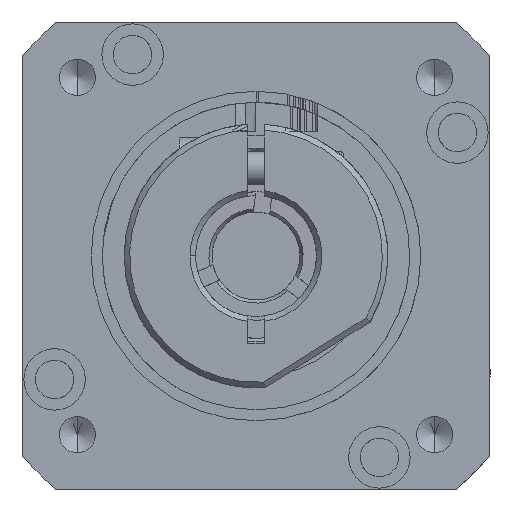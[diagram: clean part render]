
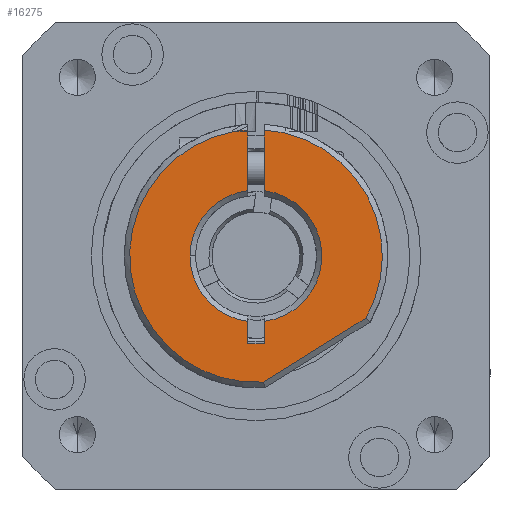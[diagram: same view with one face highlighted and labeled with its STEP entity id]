
A CAD part, left-side view. The second image highlights one B-rep face of the part: STEP entity #16275.
In plain terms, the highlighted planar face has unit normal (-1, 0, 0) as drawn and (0, -1, 0) by its records, which use the part's own axes.
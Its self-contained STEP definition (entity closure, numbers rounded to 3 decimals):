
#546 = FACE_OUTER_BOUND ( 'NONE', #20409, .T. ) ;
#1452 = DIRECTION ( 'NONE',  ( 0., 0., 1. ) ) ;
#1754 = EDGE_CURVE ( 'NONE', #43505, #19492, #45173, .T. ) ;
#2467 = VECTOR ( 'NONE', #14125, 1000. ) ;
#2603 = CARTESIAN_POINT ( 'NONE',  ( 5.953, -4., -0.75 ) ) ;
#2661 = AXIS2_PLACEMENT_3D ( 'NONE', #8057, #7956, #7884 ) ;
#3001 = CARTESIAN_POINT ( 'NONE',  ( -11.3, -4., 0. ) ) ;
#3725 = EDGE_CURVE ( 'NONE', #33046, #22919, #5771, .T. ) ;
#4030 = AXIS2_PLACEMENT_3D ( 'NONE', #49922, #25734, #1452 ) ;
#5771 = CIRCLE ( 'NONE', #2661, 11.5 ) ;
#5845 = VERTEX_POINT ( 'NONE', #38328 ) ;
#6757 = EDGE_CURVE ( 'NONE', #33067, #26559, #25935, .T. ) ;
#7259 = DIRECTION ( 'NONE',  ( 0., 0., 1. ) ) ;
#7370 = ORIENTED_EDGE ( 'NONE', *, *, #24084, .T. ) ;
#7840 = VECTOR ( 'NONE', #33724, 1000. ) ;
#7884 = DIRECTION ( 'NONE',  ( 0., 0., 1. ) ) ;
#7956 = DIRECTION ( 'NONE',  ( 0., -1., 0. ) ) ;
#8033 = ORIENTED_EDGE ( 'NONE', *, *, #49505, .T. ) ;
#8057 = CARTESIAN_POINT ( 'NONE',  ( 0., -4., 0. ) ) ;
#8690 = DIRECTION ( 'NONE',  ( 1., 0., 0. ) ) ;
#8741 = EDGE_CURVE ( 'NONE', #39120, #18537, #43976, .T. ) ;
#9149 = AXIS2_PLACEMENT_3D ( 'NONE', #45866, #21666, #49919 ) ;
#9167 = ORIENTED_EDGE ( 'NONE', *, *, #9672, .T. ) ;
#9672 = EDGE_CURVE ( 'NONE', #21585, #22077, #29282, .T. ) ;
#9776 = EDGE_CURVE ( 'NONE', #18537, #26841, #37567, .T. ) ;
#10687 = ORIENTED_EDGE ( 'NONE', *, *, #48739, .T. ) ;
#10951 = CARTESIAN_POINT ( 'NONE',  ( -14.792, -4., 0.75 ) ) ;
#11748 = ORIENTED_EDGE ( 'NONE', *, *, #36582, .T. ) ;
#12439 = CARTESIAN_POINT ( 'NONE',  ( 8., -4., -0.75 ) ) ;
#12706 = CARTESIAN_POINT ( 'NONE',  ( 0., -4., 0. ) ) ;
#12722 = CARTESIAN_POINT ( 'NONE',  ( -11.476, -4., 0.75 ) ) ;
#13787 = DIRECTION ( 'NONE',  ( -1., 0., 0. ) ) ;
#14125 = DIRECTION ( 'NONE',  ( -1., 0., 0. ) ) ;
#14667 = VERTEX_POINT ( 'NONE', #19651 ) ;
#15105 = VECTOR ( 'NONE', #50972, 1000. ) ;
#15193 = VECTOR ( 'NONE', #13787, 1000. ) ;
#15293 = CARTESIAN_POINT ( 'NONE',  ( -5.953, -4., 0.75 ) ) ;
#15542 = ORIENTED_EDGE ( 'NONE', *, *, #20354, .F. ) ;
#16113 = DIRECTION ( 'NONE',  ( 0., 0., -1. ) ) ;
#16178 = DIRECTION ( 'NONE',  ( 0., -1., 0. ) ) ;
#16275 = ADVANCED_FACE ( 'NONE', ( #546 ), #17674, .T. ) ;
#16346 = CARTESIAN_POINT ( 'NONE',  ( 5.5, -4., 0. ) ) ;
#16827 = DIRECTION ( 'NONE',  ( 0., 0., -1. ) ) ;
#17674 = PLANE ( 'NONE',  #43690 ) ;
#18305 = CARTESIAN_POINT ( 'NONE',  ( -11.476, -4., -0.75 ) ) ;
#18537 = VERTEX_POINT ( 'NONE', #15293 ) ;
#18728 = CARTESIAN_POINT ( 'NONE',  ( 8., -4., 0. ) ) ;
#19439 = ORIENTED_EDGE ( 'NONE', *, *, #8741, .T. ) ;
#19492 = VERTEX_POINT ( 'NONE', #21898 ) ;
#19651 = CARTESIAN_POINT ( 'NONE',  ( 5.651, -4., 10.016 ) ) ;
#20354 = EDGE_CURVE ( 'NONE', #24559, #22077, #30061, .T. ) ;
#20409 = EDGE_LOOP ( 'NONE', ( #15542, #7370, #29202, #37797, #8033, #19439, #48466, #10687, #51407, #47637, #20990, #44464, #27477, #11748, #9167 ) ) ;
#20576 = EDGE_CURVE ( 'NONE', #19492, #33067, #25056, .T. ) ;
#20990 = ORIENTED_EDGE ( 'NONE', *, *, #1754, .T. ) ;
#21562 = AXIS2_PLACEMENT_3D ( 'NONE', #39841, #45566, #43257 ) ;
#21585 = VERTEX_POINT ( 'NONE', #21640 ) ;
#21640 = CARTESIAN_POINT ( 'NONE',  ( -11.369, -4., -1.732 ) ) ;
#21666 = DIRECTION ( 'NONE',  ( 0., -1., 0. ) ) ;
#21898 = CARTESIAN_POINT ( 'NONE',  ( 0., -4., -6. ) ) ;
#22077 = VERTEX_POINT ( 'NONE', #30366 ) ;
#22391 = EDGE_CURVE ( 'NONE', #22919, #14667, #43265, .T. ) ;
#22796 = CARTESIAN_POINT ( 'NONE',  ( 5.5, -4., -2.103 ) ) ;
#22919 = VERTEX_POINT ( 'NONE', #40605 ) ;
#24084 = EDGE_CURVE ( 'NONE', #24559, #33046, #25135, .T. ) ;
#24559 = VERTEX_POINT ( 'NONE', #43102 ) ;
#25056 = CIRCLE ( 'NONE', #32534, 6. ) ;
#25135 = LINE ( 'NONE', #22796, #45353 ) ;
#25363 = CIRCLE ( 'NONE', #9149, 11.5 ) ;
#25734 = DIRECTION ( 'NONE',  ( 0., -1., 0. ) ) ;
#25935 = LINE ( 'NONE', #12439, #15193 ) ;
#26559 = VERTEX_POINT ( 'NONE', #18305 ) ;
#26597 = CARTESIAN_POINT ( 'NONE',  ( -11.306, -4., -2.103 ) ) ;
#26681 = VECTOR ( 'NONE', #31734, 1000. ) ;
#26841 = VERTEX_POINT ( 'NONE', #28422 ) ;
#27477 = ORIENTED_EDGE ( 'NONE', *, *, #6757, .T. ) ;
#28422 = CARTESIAN_POINT ( 'NONE',  ( 5.953, -4., 0.75 ) ) ;
#28567 = CARTESIAN_POINT ( 'NONE',  ( 11.479, -4., 0.689 ) ) ;
#29202 = ORIENTED_EDGE ( 'NONE', *, *, #3725, .T. ) ;
#29282 = LINE ( 'NONE', #34019, #7840 ) ;
#29689 = DIRECTION ( 'NONE',  ( 0., 0., -1. ) ) ;
#29756 = DIRECTION ( 'NONE',  ( 0., 1., 0. ) ) ;
#29764 = CARTESIAN_POINT ( 'NONE',  ( 0., -4., 0. ) ) ;
#30061 = LINE ( 'NONE', #3001, #40870 ) ;
#30366 = CARTESIAN_POINT ( 'NONE',  ( -11.3, -4., -1.732 ) ) ;
#30828 = DIRECTION ( 'NONE',  ( -1., 0., 0. ) ) ;
#31040 = EDGE_CURVE ( 'NONE', #5845, #43505, #34748, .T. ) ;
#31734 = DIRECTION ( 'NONE',  ( 1., 0., 0. ) ) ;
#32429 = DIRECTION ( 'NONE',  ( -0.53, 0., 0.848 ) ) ;
#32534 = AXIS2_PLACEMENT_3D ( 'NONE', #12706, #41002, #16827 ) ;
#33046 = VERTEX_POINT ( 'NONE', #26597 ) ;
#33067 = VERTEX_POINT ( 'NONE', #46729 ) ;
#33724 = DIRECTION ( 'NONE',  ( 1., 0., 0. ) ) ;
#34019 = CARTESIAN_POINT ( 'NONE',  ( -11.3, -4., -1.732 ) ) ;
#34748 = LINE ( 'NONE', #50500, #2467 ) ;
#36578 = LINE ( 'NONE', #18728, #15105 ) ;
#36582 = EDGE_CURVE ( 'NONE', #26559, #21585, #47696, .T. ) ;
#37567 = CIRCLE ( 'NONE', #45514, 6. ) ;
#37797 = ORIENTED_EDGE ( 'NONE', *, *, #22391, .T. ) ;
#38328 = CARTESIAN_POINT ( 'NONE',  ( 8., -4., -0.75 ) ) ;
#39120 = VERTEX_POINT ( 'NONE', #12722 ) ;
#39841 = CARTESIAN_POINT ( 'NONE',  ( 0., -4., 0. ) ) ;
#39956 = CARTESIAN_POINT ( 'NONE',  ( -14.792, -4., 0.75 ) ) ;
#39978 = LINE ( 'NONE', #39956, #26681 ) ;
#40605 = CARTESIAN_POINT ( 'NONE',  ( 11.479, -4., 0.689 ) ) ;
#40870 = VECTOR ( 'NONE', #7259, 1000. ) ;
#41002 = DIRECTION ( 'NONE',  ( 0., 1., 0. ) ) ;
#41970 = VECTOR ( 'NONE', #32429, 1000. ) ;
#42400 = VERTEX_POINT ( 'NONE', #48917 ) ;
#42644 = EDGE_CURVE ( 'NONE', #42400, #5845, #36578, .T. ) ;
#42700 = VECTOR ( 'NONE', #8690, 1000. ) ;
#43102 = CARTESIAN_POINT ( 'NONE',  ( -11.3, -4., -2.103 ) ) ;
#43257 = DIRECTION ( 'NONE',  ( 0., 0., -1. ) ) ;
#43265 = LINE ( 'NONE', #28567, #41970 ) ;
#43505 = VERTEX_POINT ( 'NONE', #2603 ) ;
#43690 = AXIS2_PLACEMENT_3D ( 'NONE', #16346, #16178, #16113 ) ;
#43976 = LINE ( 'NONE', #10951, #42700 ) ;
#44464 = ORIENTED_EDGE ( 'NONE', *, *, #20576, .T. ) ;
#45173 = CIRCLE ( 'NONE', #21562, 6. ) ;
#45353 = VECTOR ( 'NONE', #30828, 1000. ) ;
#45514 = AXIS2_PLACEMENT_3D ( 'NONE', #29764, #29756, #29689 ) ;
#45566 = DIRECTION ( 'NONE',  ( 0., 1., 0. ) ) ;
#45866 = CARTESIAN_POINT ( 'NONE',  ( 0., -4., 0. ) ) ;
#46729 = CARTESIAN_POINT ( 'NONE',  ( -5.953, -4., -0.75 ) ) ;
#47637 = ORIENTED_EDGE ( 'NONE', *, *, #31040, .T. ) ;
#47696 = CIRCLE ( 'NONE', #4030, 11.5 ) ;
#48466 = ORIENTED_EDGE ( 'NONE', *, *, #9776, .T. ) ;
#48739 = EDGE_CURVE ( 'NONE', #26841, #42400, #39978, .T. ) ;
#48917 = CARTESIAN_POINT ( 'NONE',  ( 8., -4., 0.75 ) ) ;
#49505 = EDGE_CURVE ( 'NONE', #14667, #39120, #25363, .T. ) ;
#49919 = DIRECTION ( 'NONE',  ( -1., 0., 0. ) ) ;
#49922 = CARTESIAN_POINT ( 'NONE',  ( 0., -4., 0. ) ) ;
#50500 = CARTESIAN_POINT ( 'NONE',  ( 8., -4., -0.75 ) ) ;
#50972 = DIRECTION ( 'NONE',  ( 0., 0., -1. ) ) ;
#51407 = ORIENTED_EDGE ( 'NONE', *, *, #42644, .T. ) ;
